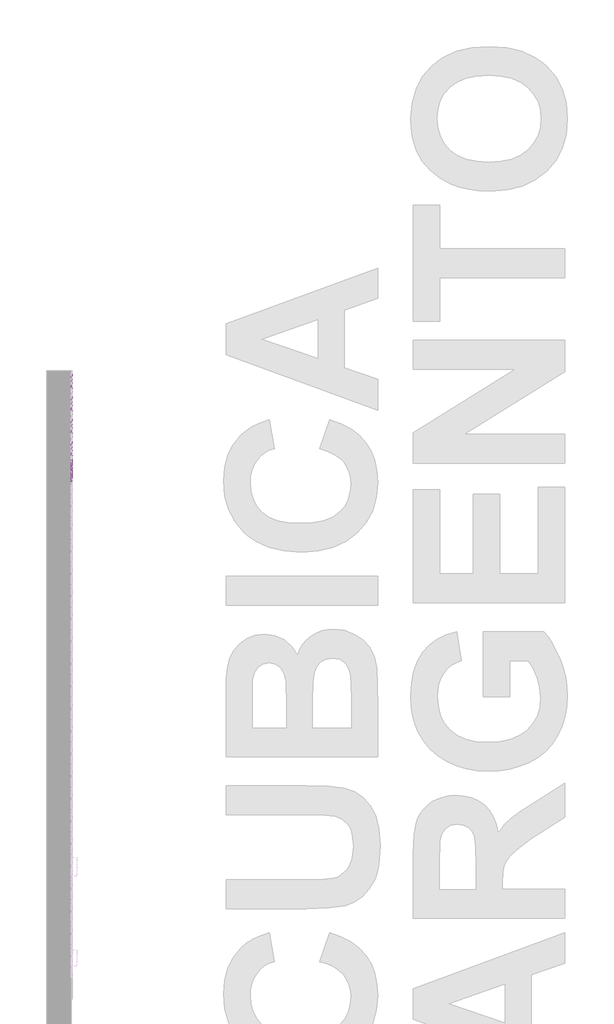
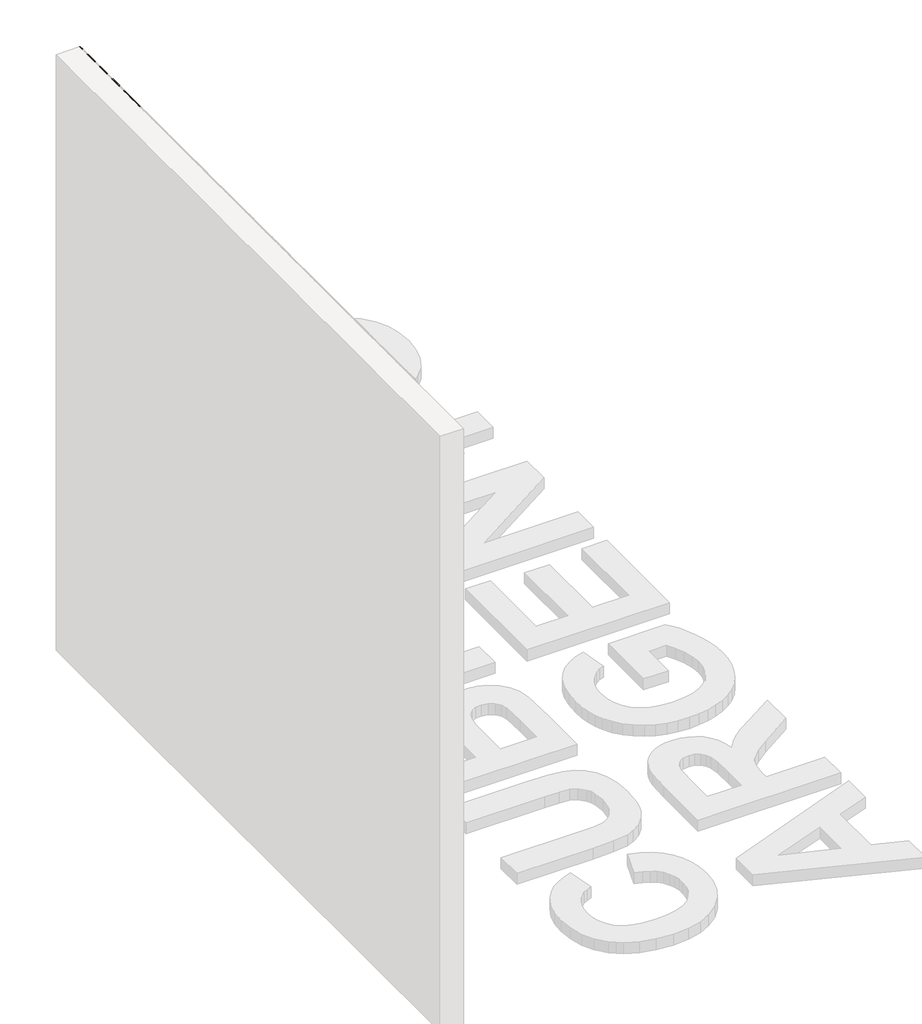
# One storey, part 24 of 121: 142 proxies.
"""IFC4 building model written with IfcOpenShell, lengths in millimetres."""

from ifc_helpers import new_model, si_unit, origin, place, context, project, spatial, transform, mapped, element, save
from components import generic_models_b2b2c5c1, generic_models_9bf73f6f, generic_models_5d175859, generic_models_336a48c1, generic_models_3c04e8e5, generic_models_61989c10, generic_models_7dea52c4, generic_models_65d4feed, generic_models_3c364290, generic_models_b212a934, generic_models_b652511d

model = new_model("IFC4")

# Units and contexts
model_context = context("Model", 3, world=origin())
ifc_project = project(units=[si_unit("LENGTHUNIT", "METRE", prefix="MILLI")], contexts=[model_context])

# Site, building, storey
site = spatial("IfcSite", under=ifc_project)
building = spatial("IfcBuilding", under=site)
storey = spatial("IfcBuildingStorey", under=building, Name="PORTOBELLO - SHOWROOM", Elevation=0.0)

# Proxies
placement = place(None, origin())
generic_models_shape = generic_models_b2b2c5c1(model_context)
element("IfcBuildingElementProxy", 1, Name="PBSHOP - CUBICA ARGENTO 4,8X8,3 : CUBICA ARGENTO - POSIÇÃO 01", ObjectType="PBSHOP - CUBICA ARGENTO 4,8X8,3 : CUBICA ARGENTO - POSIÇÃO 01", at=placement, inside=storey, context=model_context, shape_type="MappedRepresentation", body=[
    mapped(generic_models_shape, transform((150369.5341846, -3814.533081, 2012.7881262), x_axis=(0.0, 1.0, 0.0), y_axis=(0.0, 0.0, 1.0), z_axis=(1.0, 0.0, 0.0))),
])
element("IfcBuildingElementProxy", 2, Name="PBSHOP - CUBICA ARGENTO 4,8X8,3 : CUBICA ARGENTO - POSIÇÃO 01", ObjectType="PBSHOP - CUBICA ARGENTO 4,8X8,3 : CUBICA ARGENTO - POSIÇÃO 01", at=placement, inside=storey, context=model_context, shape_type="MappedRepresentation", body=[
    mapped(generic_models_shape, transform((150369.5341846, -3723.6938117, 2012.7881262), x_axis=(0.0, 1.0, 0.0), y_axis=(0.0, 0.0, 1.0), z_axis=(1.0, 0.0, 0.0))),
])
element("IfcBuildingElementProxy", 3, Name="PBSHOP - CUBICA ARGENTO 4,8X8,3 : CUBICA ARGENTO - POSIÇÃO 01", ObjectType="PBSHOP - CUBICA ARGENTO 4,8X8,3 : CUBICA ARGENTO - POSIÇÃO 01", at=placement, inside=storey, context=model_context, shape_type="MappedRepresentation", body=[
    mapped(generic_models_shape, transform((150369.5341846, -3632.8545425, 2012.7881262), x_axis=(0.0, 1.0, 0.0), y_axis=(0.0, 0.0, 1.0), z_axis=(1.0, 0.0, 0.0))),
])
element("IfcBuildingElementProxy", 4, Name="PBSHOP - CUBICA ARGENTO 4,8X8,3 : CUBICA ARGENTO - POSIÇÃO 01", ObjectType="PBSHOP - CUBICA ARGENTO 4,8X8,3 : CUBICA ARGENTO - POSIÇÃO 01", at=placement, inside=storey, context=model_context, shape_type="MappedRepresentation", body=[
    mapped(generic_models_shape, transform((150369.5341846, -3950.7919848, 2091.7227645), x_axis=(0.0, 1.0, 0.0), y_axis=(0.0, 0.0, 1.0), z_axis=(1.0, 0.0, 0.0))),
])
element("IfcBuildingElementProxy", 5, Name="PBSHOP - CUBICA ARGENTO 4,8X8,3 : CUBICA ARGENTO - POSIÇÃO 01", ObjectType="PBSHOP - CUBICA ARGENTO 4,8X8,3 : CUBICA ARGENTO - POSIÇÃO 01", at=placement, inside=storey, context=model_context, shape_type="MappedRepresentation", body=[
    mapped(generic_models_shape, transform((150369.5341846, -3859.9527156, 2091.7227645), x_axis=(0.0, 1.0, 0.0), y_axis=(0.0, 0.0, 1.0), z_axis=(1.0, 0.0, 0.0))),
])
element("IfcBuildingElementProxy", 6, Name="PBSHOP - CUBICA ARGENTO 4,8X8,3 : CUBICA ARGENTO - POSIÇÃO 01", ObjectType="PBSHOP - CUBICA ARGENTO 4,8X8,3 : CUBICA ARGENTO - POSIÇÃO 01", at=placement, inside=storey, context=model_context, shape_type="MappedRepresentation", body=[
    mapped(generic_models_shape, transform((150369.5341846, -3769.1134464, 2091.7227645), x_axis=(0.0, 1.0, 0.0), y_axis=(0.0, 0.0, 1.0), z_axis=(1.0, 0.0, 0.0))),
])
element("IfcBuildingElementProxy", 7, Name="PBSHOP - CUBICA ARGENTO 4,8X8,3 : CUBICA ARGENTO - POSIÇÃO 01", ObjectType="PBSHOP - CUBICA ARGENTO 4,8X8,3 : CUBICA ARGENTO - POSIÇÃO 01", at=placement, inside=storey, context=model_context, shape_type="MappedRepresentation", body=[
    mapped(generic_models_shape, transform((150369.5341846, -3678.2741771, 2091.7227645), x_axis=(0.0, 1.0, 0.0), y_axis=(0.0, 0.0, 1.0), z_axis=(1.0, 0.0, 0.0))),
])
element("IfcBuildingElementProxy", 8, Name="PBSHOP - CUBICA ARGENTO 4,8X8,3 : CUBICA ARGENTO - POSIÇÃO 01", ObjectType="PBSHOP - CUBICA ARGENTO 4,8X8,3 : CUBICA ARGENTO - POSIÇÃO 01", at=placement, inside=storey, context=model_context, shape_type="MappedRepresentation", body=[
    mapped(generic_models_shape, transform((150369.5341846, -3996.2116195, 2170.6574029), x_axis=(0.0, 1.0, 0.0), y_axis=(0.0, 0.0, 1.0), z_axis=(1.0, 0.0, 0.0))),
])
element("IfcBuildingElementProxy", 9, Name="PBSHOP - CUBICA ARGENTO 4,8X8,3 : CUBICA ARGENTO - POSIÇÃO 01", ObjectType="PBSHOP - CUBICA ARGENTO 4,8X8,3 : CUBICA ARGENTO - POSIÇÃO 01", at=placement, inside=storey, context=model_context, shape_type="MappedRepresentation", body=[
    mapped(generic_models_shape, transform((150369.5341846, -3905.3723502, 2170.6574029), x_axis=(0.0, 1.0, 0.0), y_axis=(0.0, 0.0, 1.0), z_axis=(1.0, 0.0, 0.0))),
])
element("IfcBuildingElementProxy", 10, Name="PBSHOP - CUBICA ARGENTO 4,8X8,3 : CUBICA ARGENTO - POSIÇÃO 01", ObjectType="PBSHOP - CUBICA ARGENTO 4,8X8,3 : CUBICA ARGENTO - POSIÇÃO 01", at=placement, inside=storey, context=model_context, shape_type="MappedRepresentation", body=[
    mapped(generic_models_shape, transform((150369.5341846, -3814.533081, 2170.6574029), x_axis=(0.0, 1.0, 0.0), y_axis=(0.0, 0.0, 1.0), z_axis=(1.0, 0.0, 0.0))),
])
element("IfcBuildingElementProxy", 11, Name="PBSHOP - CUBICA ARGENTO 4,8X8,3 : CUBICA ARGENTO - POSIÇÃO 01", ObjectType="PBSHOP - CUBICA ARGENTO 4,8X8,3 : CUBICA ARGENTO - POSIÇÃO 01", at=placement, inside=storey, context=model_context, shape_type="MappedRepresentation", body=[
    mapped(generic_models_shape, transform((150369.5341846, -3723.6938117, 2170.6574029), x_axis=(0.0, 1.0, 0.0), y_axis=(0.0, 0.0, 1.0), z_axis=(1.0, 0.0, 0.0))),
])
element("IfcBuildingElementProxy", 12, Name="PBSHOP - CUBICA ARGENTO 4,8X8,3 : CUBICA ARGENTO - POSIÇÃO 01", ObjectType="PBSHOP - CUBICA ARGENTO 4,8X8,3 : CUBICA ARGENTO - POSIÇÃO 01", at=placement, inside=storey, context=model_context, shape_type="MappedRepresentation", body=[
    mapped(generic_models_shape, transform((150369.5341846, -3632.8545425, 2170.6574029), x_axis=(0.0, 1.0, 0.0), y_axis=(0.0, 0.0, 1.0), z_axis=(1.0, 0.0, 0.0))),
])
element("IfcBuildingElementProxy", 13, Name="PBSHOP - CUBICA ARGENTO 4,8X8,3 : CUBICA ARGENTO - POSIÇÃO 01", ObjectType="PBSHOP - CUBICA ARGENTO 4,8X8,3 : CUBICA ARGENTO - POSIÇÃO 01", at=placement, inside=storey, context=model_context, shape_type="MappedRepresentation", body=[
    mapped(generic_models_shape, transform((150369.5341846, -3950.7919848, 2249.5920413), x_axis=(0.0, 1.0, 0.0), y_axis=(0.0, 0.0, 1.0), z_axis=(1.0, 0.0, 0.0))),
])
element("IfcBuildingElementProxy", 14, Name="PBSHOP - CUBICA ARGENTO 4,8X8,3 : CUBICA ARGENTO - POSIÇÃO 01", ObjectType="PBSHOP - CUBICA ARGENTO 4,8X8,3 : CUBICA ARGENTO - POSIÇÃO 01", at=placement, inside=storey, context=model_context, shape_type="MappedRepresentation", body=[
    mapped(generic_models_shape, transform((150369.5341846, -3859.9527156, 2249.5920413), x_axis=(0.0, 1.0, 0.0), y_axis=(0.0, 0.0, 1.0), z_axis=(1.0, 0.0, 0.0))),
])
element("IfcBuildingElementProxy", 15, Name="PBSHOP - CUBICA ARGENTO 4,8X8,3 : CUBICA ARGENTO - POSIÇÃO 01", ObjectType="PBSHOP - CUBICA ARGENTO 4,8X8,3 : CUBICA ARGENTO - POSIÇÃO 01", at=placement, inside=storey, context=model_context, shape_type="MappedRepresentation", body=[
    mapped(generic_models_shape, transform((150369.5341846, -3769.1134464, 2249.5920413), x_axis=(0.0, 1.0, 0.0), y_axis=(0.0, 0.0, 1.0), z_axis=(1.0, 0.0, 0.0))),
])
element("IfcBuildingElementProxy", 16, Name="PBSHOP - CUBICA ARGENTO 4,8X8,3 : CUBICA ARGENTO - POSIÇÃO 01", ObjectType="PBSHOP - CUBICA ARGENTO 4,8X8,3 : CUBICA ARGENTO - POSIÇÃO 01", at=placement, inside=storey, context=model_context, shape_type="MappedRepresentation", body=[
    mapped(generic_models_shape, transform((150369.5341846, -3678.2741771, 2249.5920413), x_axis=(0.0, 1.0, 0.0), y_axis=(0.0, 0.0, 1.0), z_axis=(1.0, 0.0, 0.0))),
])
element("IfcBuildingElementProxy", 17, Name="PBSHOP - CUBICA ARGENTO 4,8X8,3 : CUBICA ARGENTO - POSIÇÃO 01", ObjectType="PBSHOP - CUBICA ARGENTO 4,8X8,3 : CUBICA ARGENTO - POSIÇÃO 01", at=placement, inside=storey, context=model_context, shape_type="MappedRepresentation", body=[
    mapped(generic_models_shape, transform((150369.5341846, -3996.2116195, 2328.5266797), x_axis=(0.0, 1.0, 0.0), y_axis=(0.0, 0.0, 1.0), z_axis=(1.0, 0.0, 0.0))),
])
element("IfcBuildingElementProxy", 18, Name="PBSHOP - CUBICA ARGENTO 4,8X8,3 : CUBICA ARGENTO - POSIÇÃO 01", ObjectType="PBSHOP - CUBICA ARGENTO 4,8X8,3 : CUBICA ARGENTO - POSIÇÃO 01", at=placement, inside=storey, context=model_context, shape_type="MappedRepresentation", body=[
    mapped(generic_models_shape, transform((150369.5341846, -3905.3723502, 2328.5266797), x_axis=(0.0, 1.0, 0.0), y_axis=(0.0, 0.0, 1.0), z_axis=(1.0, 0.0, 0.0))),
])
element("IfcBuildingElementProxy", 19, Name="PBSHOP - CUBICA ARGENTO 4,8X8,3 : CUBICA ARGENTO - POSIÇÃO 01", ObjectType="PBSHOP - CUBICA ARGENTO 4,8X8,3 : CUBICA ARGENTO - POSIÇÃO 01", at=placement, inside=storey, context=model_context, shape_type="MappedRepresentation", body=[
    mapped(generic_models_shape, transform((150369.5341846, -3814.533081, 2328.5266797), x_axis=(0.0, 1.0, 0.0), y_axis=(0.0, 0.0, 1.0), z_axis=(1.0, 0.0, 0.0))),
])
element("IfcBuildingElementProxy", 20, Name="PBSHOP - CUBICA ARGENTO 4,8X8,3 : CUBICA ARGENTO - POSIÇÃO 01", ObjectType="PBSHOP - CUBICA ARGENTO 4,8X8,3 : CUBICA ARGENTO - POSIÇÃO 01", at=placement, inside=storey, context=model_context, shape_type="MappedRepresentation", body=[
    mapped(generic_models_shape, transform((150369.5341846, -3723.6938117, 2328.5266797), x_axis=(0.0, 1.0, 0.0), y_axis=(0.0, 0.0, 1.0), z_axis=(1.0, 0.0, 0.0))),
])
element("IfcBuildingElementProxy", 21, Name="PBSHOP - CUBICA ARGENTO 4,8X8,3 : CUBICA ARGENTO - POSIÇÃO 01", ObjectType="PBSHOP - CUBICA ARGENTO 4,8X8,3 : CUBICA ARGENTO - POSIÇÃO 01", at=placement, inside=storey, context=model_context, shape_type="MappedRepresentation", body=[
    mapped(generic_models_shape, transform((150369.5341846, -3632.8545425, 2328.5266797), x_axis=(0.0, 1.0, 0.0), y_axis=(0.0, 0.0, 1.0), z_axis=(1.0, 0.0, 0.0))),
])
element("IfcBuildingElementProxy", 22, Name="PBSHOP - CUBICA ARGENTO 4,8X8,3 : CUBICA ARGENTO - POSIÇÃO 01", ObjectType="PBSHOP - CUBICA ARGENTO 4,8X8,3 : CUBICA ARGENTO - POSIÇÃO 01", at=placement, inside=storey, context=model_context, shape_type="MappedRepresentation", body=[
    mapped(generic_models_shape, transform((150369.5341846, -3950.7919848, 2407.461318), x_axis=(0.0, 1.0, 0.0), y_axis=(0.0, 0.0, 1.0), z_axis=(1.0, 0.0, 0.0))),
])
element("IfcBuildingElementProxy", 23, Name="PBSHOP - CUBICA ARGENTO 4,8X8,3 : CUBICA ARGENTO - POSIÇÃO 01", ObjectType="PBSHOP - CUBICA ARGENTO 4,8X8,3 : CUBICA ARGENTO - POSIÇÃO 01", at=placement, inside=storey, context=model_context, shape_type="MappedRepresentation", body=[
    mapped(generic_models_shape, transform((150369.5341846, -3859.9527156, 2407.461318), x_axis=(0.0, 1.0, 0.0), y_axis=(0.0, 0.0, 1.0), z_axis=(1.0, 0.0, 0.0))),
])
element("IfcBuildingElementProxy", 24, Name="PBSHOP - CUBICA ARGENTO 4,8X8,3 : CUBICA ARGENTO - POSIÇÃO 01", ObjectType="PBSHOP - CUBICA ARGENTO 4,8X8,3 : CUBICA ARGENTO - POSIÇÃO 01", at=placement, inside=storey, context=model_context, shape_type="MappedRepresentation", body=[
    mapped(generic_models_shape, transform((150369.5341846, -3769.1134464, 2407.461318), x_axis=(0.0, 1.0, 0.0), y_axis=(0.0, 0.0, 1.0), z_axis=(1.0, 0.0, 0.0))),
])
element("IfcBuildingElementProxy", 25, Name="PBSHOP - CUBICA ARGENTO 4,8X8,3 : CUBICA ARGENTO - POSIÇÃO 01", ObjectType="PBSHOP - CUBICA ARGENTO 4,8X8,3 : CUBICA ARGENTO - POSIÇÃO 01", at=placement, inside=storey, context=model_context, shape_type="MappedRepresentation", body=[
    mapped(generic_models_shape, transform((150369.5341846, -3678.2741771, 2407.461318), x_axis=(0.0, 1.0, 0.0), y_axis=(0.0, 0.0, 1.0), z_axis=(1.0, 0.0, 0.0))),
])
element("IfcBuildingElementProxy", 26, Name="PBSHOP - CUBICA ARGENTO 4,8X8,3 : CUBICA ARGENTO - POSIÇÃO 01", ObjectType="PBSHOP - CUBICA ARGENTO 4,8X8,3 : CUBICA ARGENTO - POSIÇÃO 01", at=placement, inside=storey, context=model_context, shape_type="MappedRepresentation", body=[
    mapped(generic_models_shape, transform((150369.5341846, -3996.2116195, 2486.3959564), x_axis=(0.0, 1.0, 0.0), y_axis=(0.0, 0.0, 1.0), z_axis=(1.0, 0.0, 0.0))),
])
element("IfcBuildingElementProxy", 27, Name="PBSHOP - CUBICA ARGENTO 4,8X8,3 : CUBICA ARGENTO - POSIÇÃO 01", ObjectType="PBSHOP - CUBICA ARGENTO 4,8X8,3 : CUBICA ARGENTO - POSIÇÃO 01", at=placement, inside=storey, context=model_context, shape_type="MappedRepresentation", body=[
    mapped(generic_models_shape, transform((150369.5341846, -3905.3723502, 2486.3959564), x_axis=(0.0, 1.0, 0.0), y_axis=(0.0, 0.0, 1.0), z_axis=(1.0, 0.0, 0.0))),
])
element("IfcBuildingElementProxy", 28, Name="PBSHOP - CUBICA ARGENTO 4,8X8,3 : CUBICA ARGENTO - POSIÇÃO 01", ObjectType="PBSHOP - CUBICA ARGENTO 4,8X8,3 : CUBICA ARGENTO - POSIÇÃO 01", at=placement, inside=storey, context=model_context, shape_type="MappedRepresentation", body=[
    mapped(generic_models_shape, transform((150369.5341846, -3814.533081, 2486.3959564), x_axis=(0.0, 1.0, 0.0), y_axis=(0.0, 0.0, 1.0), z_axis=(1.0, 0.0, 0.0))),
])
element("IfcBuildingElementProxy", 29, Name="PBSHOP - CUBICA ARGENTO 4,8X8,3 : CUBICA ARGENTO - POSIÇÃO 01", ObjectType="PBSHOP - CUBICA ARGENTO 4,8X8,3 : CUBICA ARGENTO - POSIÇÃO 01", at=placement, inside=storey, context=model_context, shape_type="MappedRepresentation", body=[
    mapped(generic_models_shape, transform((150369.5341846, -3723.6938117, 2486.3959564), x_axis=(0.0, 1.0, 0.0), y_axis=(0.0, 0.0, 1.0), z_axis=(1.0, 0.0, 0.0))),
])
element("IfcBuildingElementProxy", 30, Name="PBSHOP - CUBICA ARGENTO 4,8X8,3 : CUBICA ARGENTO - POSIÇÃO 01", ObjectType="PBSHOP - CUBICA ARGENTO 4,8X8,3 : CUBICA ARGENTO - POSIÇÃO 01", at=placement, inside=storey, context=model_context, shape_type="MappedRepresentation", body=[
    mapped(generic_models_shape, transform((150369.5341846, -3632.8545425, 2486.3959564), x_axis=(0.0, 1.0, 0.0), y_axis=(0.0, 0.0, 1.0), z_axis=(1.0, 0.0, 0.0))),
])
element("IfcBuildingElementProxy", 31, Name="PBSHOP - CUBICA ARGENTO 4,8X8,3 : CUBICA ARGENTO - POSIÇÃO 01", ObjectType="PBSHOP - CUBICA ARGENTO 4,8X8,3 : CUBICA ARGENTO - POSIÇÃO 01", at=placement, inside=storey, context=model_context, shape_type="MappedRepresentation", body=[
    mapped(generic_models_shape, transform((150369.5341846, -3950.7919848, 2565.3305948), x_axis=(0.0, 1.0, 0.0), y_axis=(0.0, 0.0, 1.0), z_axis=(1.0, 0.0, 0.0))),
])
element("IfcBuildingElementProxy", 32, Name="PBSHOP - CUBICA ARGENTO 4,8X8,3 : CUBICA ARGENTO - POSIÇÃO 01", ObjectType="PBSHOP - CUBICA ARGENTO 4,8X8,3 : CUBICA ARGENTO - POSIÇÃO 01", at=placement, inside=storey, context=model_context, shape_type="MappedRepresentation", body=[
    mapped(generic_models_shape, transform((150369.5341846, -3859.9527156, 2565.3305948), x_axis=(0.0, 1.0, 0.0), y_axis=(0.0, 0.0, 1.0), z_axis=(1.0, 0.0, 0.0))),
])
element("IfcBuildingElementProxy", 33, Name="PBSHOP - CUBICA ARGENTO 4,8X8,3 : CUBICA ARGENTO - POSIÇÃO 01", ObjectType="PBSHOP - CUBICA ARGENTO 4,8X8,3 : CUBICA ARGENTO - POSIÇÃO 01", at=placement, inside=storey, context=model_context, shape_type="MappedRepresentation", body=[
    mapped(generic_models_shape, transform((150369.5341846, -3769.1134464, 2565.3305948), x_axis=(0.0, 1.0, 0.0), y_axis=(0.0, 0.0, 1.0), z_axis=(1.0, 0.0, 0.0))),
])
element("IfcBuildingElementProxy", 34, Name="PBSHOP - CUBICA ARGENTO 4,8X8,3 : CUBICA ARGENTO - POSIÇÃO 01", ObjectType="PBSHOP - CUBICA ARGENTO 4,8X8,3 : CUBICA ARGENTO - POSIÇÃO 01", at=placement, inside=storey, context=model_context, shape_type="MappedRepresentation", body=[
    mapped(generic_models_shape, transform((150369.5341846, -3678.2741771, 2565.3305948), x_axis=(0.0, 1.0, 0.0), y_axis=(0.0, 0.0, 1.0), z_axis=(1.0, 0.0, 0.0))),
])
element("IfcBuildingElementProxy", 35, Name="PBSHOP - CUBICA ARGENTO 4,8X8,3 : CUBICA ARGENTO - POSIÇÃO 01", ObjectType="PBSHOP - CUBICA ARGENTO 4,8X8,3 : CUBICA ARGENTO - POSIÇÃO 01", at=placement, inside=storey, context=model_context, shape_type="MappedRepresentation", body=[
    mapped(generic_models_shape, transform((150369.5341846, -3996.2116195, 2644.2652332), x_axis=(0.0, 1.0, 0.0), y_axis=(0.0, 0.0, 1.0), z_axis=(1.0, 0.0, 0.0))),
])
element("IfcBuildingElementProxy", 36, Name="PBSHOP - CUBICA ARGENTO 4,8X8,3 : CUBICA ARGENTO - POSIÇÃO 01", ObjectType="PBSHOP - CUBICA ARGENTO 4,8X8,3 : CUBICA ARGENTO - POSIÇÃO 01", at=placement, inside=storey, context=model_context, shape_type="MappedRepresentation", body=[
    mapped(generic_models_shape, transform((150369.5341846, -3905.3723502, 2644.2652332), x_axis=(0.0, 1.0, 0.0), y_axis=(0.0, 0.0, 1.0), z_axis=(1.0, 0.0, 0.0))),
])
element("IfcBuildingElementProxy", 37, Name="PBSHOP - CUBICA ARGENTO 4,8X8,3 : CUBICA ARGENTO - POSIÇÃO 01", ObjectType="PBSHOP - CUBICA ARGENTO 4,8X8,3 : CUBICA ARGENTO - POSIÇÃO 01", at=placement, inside=storey, context=model_context, shape_type="MappedRepresentation", body=[
    mapped(generic_models_shape, transform((150369.5341846, -3814.533081, 2644.2652332), x_axis=(0.0, 1.0, 0.0), y_axis=(0.0, 0.0, 1.0), z_axis=(1.0, 0.0, 0.0))),
])
element("IfcBuildingElementProxy", 38, Name="PBSHOP - CUBICA ARGENTO 4,8X8,3 : CUBICA ARGENTO - POSIÇÃO 01", ObjectType="PBSHOP - CUBICA ARGENTO 4,8X8,3 : CUBICA ARGENTO - POSIÇÃO 01", at=placement, inside=storey, context=model_context, shape_type="MappedRepresentation", body=[
    mapped(generic_models_shape, transform((150369.5341846, -3723.6938117, 2644.2652332), x_axis=(0.0, 1.0, 0.0), y_axis=(0.0, 0.0, 1.0), z_axis=(1.0, 0.0, 0.0))),
])
element("IfcBuildingElementProxy", 39, Name="PBSHOP - CUBICA ARGENTO 4,8X8,3 : CUBICA ARGENTO - POSIÇÃO 01", ObjectType="PBSHOP - CUBICA ARGENTO 4,8X8,3 : CUBICA ARGENTO - POSIÇÃO 01", at=placement, inside=storey, context=model_context, shape_type="MappedRepresentation", body=[
    mapped(generic_models_shape, transform((150369.5341846, -3632.8545425, 2644.2652332), x_axis=(0.0, 1.0, 0.0), y_axis=(0.0, 0.0, 1.0), z_axis=(1.0, 0.0, 0.0))),
])
generic_models_2_shape = generic_models_9bf73f6f(model_context)
element("IfcBuildingElementProxy", 40, Name="PBSHOP - CUBICA ARGENTO 4,8X8,3 : CUBICA ARGENTO - POSIÇÃO 03", ObjectType="PBSHOP - CUBICA ARGENTO 4,8X8,3 : CUBICA ARGENTO - POSIÇÃO 03", at=placement, inside=storey, context=model_context, shape_type="MappedRepresentation", body=[
    mapped(generic_models_2_shape, transform((150369.5341846, -3928.0800084, 1973.2795966), x_axis=(0.0, 1.0, 0.0), y_axis=(0.0, 0.0, 1.0), z_axis=(1.0, 0.0, 0.0))),
])
element("IfcBuildingElementProxy", 41, Name="PBSHOP - CUBICA ARGENTO 4,8X8,3 : CUBICA ARGENTO - POSIÇÃO 03", ObjectType="PBSHOP - CUBICA ARGENTO 4,8X8,3 : CUBICA ARGENTO - POSIÇÃO 03", at=placement, inside=storey, context=model_context, shape_type="MappedRepresentation", body=[
    mapped(generic_models_2_shape, transform((150369.5341846, -3837.2407391, 1973.2795966), x_axis=(0.0, 1.0, 0.0), y_axis=(0.0, 0.0, 1.0), z_axis=(1.0, 0.0, 0.0))),
])
element("IfcBuildingElementProxy", 42, Name="PBSHOP - CUBICA ARGENTO 4,8X8,3 : CUBICA ARGENTO - POSIÇÃO 03", ObjectType="PBSHOP - CUBICA ARGENTO 4,8X8,3 : CUBICA ARGENTO - POSIÇÃO 03", at=placement, inside=storey, context=model_context, shape_type="MappedRepresentation", body=[
    mapped(generic_models_2_shape, transform((150369.5341846, -3746.4014699, 1973.2795966), x_axis=(0.0, 1.0, 0.0), y_axis=(0.0, 0.0, 1.0), z_axis=(1.0, 0.0, 0.0))),
])
element("IfcBuildingElementProxy", 43, Name="PBSHOP - CUBICA ARGENTO 4,8X8,3 : CUBICA ARGENTO - POSIÇÃO 03", ObjectType="PBSHOP - CUBICA ARGENTO 4,8X8,3 : CUBICA ARGENTO - POSIÇÃO 03", at=placement, inside=storey, context=model_context, shape_type="MappedRepresentation", body=[
    mapped(generic_models_2_shape, transform((150369.5341846, -3655.5622006, 1973.2795966), x_axis=(0.0, 1.0, 0.0), y_axis=(0.0, 0.0, 1.0), z_axis=(1.0, 0.0, 0.0))),
])
element("IfcBuildingElementProxy", 44, Name="PBSHOP - CUBICA ARGENTO 4,8X8,3 : CUBICA ARGENTO - POSIÇÃO 03", ObjectType="PBSHOP - CUBICA ARGENTO 4,8X8,3 : CUBICA ARGENTO - POSIÇÃO 03", at=placement, inside=storey, context=model_context, shape_type="MappedRepresentation", body=[
    mapped(generic_models_2_shape, transform((150369.5341846, -3973.499643, 2052.2142349), x_axis=(0.0, 1.0, 0.0), y_axis=(0.0, 0.0, 1.0), z_axis=(1.0, 0.0, 0.0))),
])
element("IfcBuildingElementProxy", 45, Name="PBSHOP - CUBICA ARGENTO 4,8X8,3 : CUBICA ARGENTO - POSIÇÃO 03", ObjectType="PBSHOP - CUBICA ARGENTO 4,8X8,3 : CUBICA ARGENTO - POSIÇÃO 03", at=placement, inside=storey, context=model_context, shape_type="MappedRepresentation", body=[
    mapped(generic_models_2_shape, transform((150369.5341846, -3882.6603737, 2052.2142349), x_axis=(0.0, 1.0, 0.0), y_axis=(0.0, 0.0, 1.0), z_axis=(1.0, 0.0, 0.0))),
])
element("IfcBuildingElementProxy", 46, Name="PBSHOP - CUBICA ARGENTO 4,8X8,3 : CUBICA ARGENTO - POSIÇÃO 03", ObjectType="PBSHOP - CUBICA ARGENTO 4,8X8,3 : CUBICA ARGENTO - POSIÇÃO 03", at=placement, inside=storey, context=model_context, shape_type="MappedRepresentation", body=[
    mapped(generic_models_2_shape, transform((150369.5341846, -3791.8211045, 2052.2142349), x_axis=(0.0, 1.0, 0.0), y_axis=(0.0, 0.0, 1.0), z_axis=(1.0, 0.0, 0.0))),
])
element("IfcBuildingElementProxy", 47, Name="PBSHOP - CUBICA ARGENTO 4,8X8,3 : CUBICA ARGENTO - POSIÇÃO 03", ObjectType="PBSHOP - CUBICA ARGENTO 4,8X8,3 : CUBICA ARGENTO - POSIÇÃO 03", at=placement, inside=storey, context=model_context, shape_type="MappedRepresentation", body=[
    mapped(generic_models_2_shape, transform((150369.5341846, -3700.9818353, 2052.2142349), x_axis=(0.0, 1.0, 0.0), y_axis=(0.0, 0.0, 1.0), z_axis=(1.0, 0.0, 0.0))),
])
element("IfcBuildingElementProxy", 48, Name="PBSHOP - CUBICA ARGENTO 4,8X8,3 : CUBICA ARGENTO - POSIÇÃO 03", ObjectType="PBSHOP - CUBICA ARGENTO 4,8X8,3 : CUBICA ARGENTO - POSIÇÃO 03", at=placement, inside=storey, context=model_context, shape_type="MappedRepresentation", body=[
    mapped(generic_models_2_shape, transform((150369.5341846, -3928.0800084, 2131.1488733), x_axis=(0.0, 1.0, 0.0), y_axis=(0.0, 0.0, 1.0), z_axis=(1.0, 0.0, 0.0))),
])
element("IfcBuildingElementProxy", 49, Name="PBSHOP - CUBICA ARGENTO 4,8X8,3 : CUBICA ARGENTO - POSIÇÃO 03", ObjectType="PBSHOP - CUBICA ARGENTO 4,8X8,3 : CUBICA ARGENTO - POSIÇÃO 03", at=placement, inside=storey, context=model_context, shape_type="MappedRepresentation", body=[
    mapped(generic_models_2_shape, transform((150369.5341846, -3837.2407391, 2131.1488733), x_axis=(0.0, 1.0, 0.0), y_axis=(0.0, 0.0, 1.0), z_axis=(1.0, 0.0, 0.0))),
])
element("IfcBuildingElementProxy", 50, Name="PBSHOP - CUBICA ARGENTO 4,8X8,3 : CUBICA ARGENTO - POSIÇÃO 03", ObjectType="PBSHOP - CUBICA ARGENTO 4,8X8,3 : CUBICA ARGENTO - POSIÇÃO 03", at=placement, inside=storey, context=model_context, shape_type="MappedRepresentation", body=[
    mapped(generic_models_2_shape, transform((150369.5341846, -3746.4014699, 2131.1488733), x_axis=(0.0, 1.0, 0.0), y_axis=(0.0, 0.0, 1.0), z_axis=(1.0, 0.0, 0.0))),
])
element("IfcBuildingElementProxy", 51, Name="PBSHOP - CUBICA ARGENTO 4,8X8,3 : CUBICA ARGENTO - POSIÇÃO 03", ObjectType="PBSHOP - CUBICA ARGENTO 4,8X8,3 : CUBICA ARGENTO - POSIÇÃO 03", at=placement, inside=storey, context=model_context, shape_type="MappedRepresentation", body=[
    mapped(generic_models_2_shape, transform((150369.5341846, -3655.5622006, 2131.1488733), x_axis=(0.0, 1.0, 0.0), y_axis=(0.0, 0.0, 1.0), z_axis=(1.0, 0.0, 0.0))),
])
element("IfcBuildingElementProxy", 52, Name="PBSHOP - CUBICA ARGENTO 4,8X8,3 : CUBICA ARGENTO - POSIÇÃO 03", ObjectType="PBSHOP - CUBICA ARGENTO 4,8X8,3 : CUBICA ARGENTO - POSIÇÃO 03", at=placement, inside=storey, context=model_context, shape_type="MappedRepresentation", body=[
    mapped(generic_models_2_shape, transform((150369.5341846, -3973.499643, 2210.0835117), x_axis=(0.0, 1.0, 0.0), y_axis=(0.0, 0.0, 1.0), z_axis=(1.0, 0.0, 0.0))),
])
element("IfcBuildingElementProxy", 53, Name="PBSHOP - CUBICA ARGENTO 4,8X8,3 : CUBICA ARGENTO - POSIÇÃO 03", ObjectType="PBSHOP - CUBICA ARGENTO 4,8X8,3 : CUBICA ARGENTO - POSIÇÃO 03", at=placement, inside=storey, context=model_context, shape_type="MappedRepresentation", body=[
    mapped(generic_models_2_shape, transform((150369.5341846, -3882.6603737, 2210.0835117), x_axis=(0.0, 1.0, 0.0), y_axis=(0.0, 0.0, 1.0), z_axis=(1.0, 0.0, 0.0))),
])
element("IfcBuildingElementProxy", 54, Name="PBSHOP - CUBICA ARGENTO 4,8X8,3 : CUBICA ARGENTO - POSIÇÃO 03", ObjectType="PBSHOP - CUBICA ARGENTO 4,8X8,3 : CUBICA ARGENTO - POSIÇÃO 03", at=placement, inside=storey, context=model_context, shape_type="MappedRepresentation", body=[
    mapped(generic_models_2_shape, transform((150369.5341846, -3791.8211045, 2210.0835117), x_axis=(0.0, 1.0, 0.0), y_axis=(0.0, 0.0, 1.0), z_axis=(1.0, 0.0, 0.0))),
])
element("IfcBuildingElementProxy", 55, Name="PBSHOP - CUBICA ARGENTO 4,8X8,3 : CUBICA ARGENTO - POSIÇÃO 03", ObjectType="PBSHOP - CUBICA ARGENTO 4,8X8,3 : CUBICA ARGENTO - POSIÇÃO 03", at=placement, inside=storey, context=model_context, shape_type="MappedRepresentation", body=[
    mapped(generic_models_2_shape, transform((150369.5341846, -3700.9818353, 2210.0835117), x_axis=(0.0, 1.0, 0.0), y_axis=(0.0, 0.0, 1.0), z_axis=(1.0, 0.0, 0.0))),
])
element("IfcBuildingElementProxy", 56, Name="PBSHOP - CUBICA ARGENTO 4,8X8,3 : CUBICA ARGENTO - POSIÇÃO 03", ObjectType="PBSHOP - CUBICA ARGENTO 4,8X8,3 : CUBICA ARGENTO - POSIÇÃO 03", at=placement, inside=storey, context=model_context, shape_type="MappedRepresentation", body=[
    mapped(generic_models_2_shape, transform((150369.5341846, -3928.0800084, 2289.0181501), x_axis=(0.0, 1.0, 0.0), y_axis=(0.0, 0.0, 1.0), z_axis=(1.0, 0.0, 0.0))),
])
element("IfcBuildingElementProxy", 57, Name="PBSHOP - CUBICA ARGENTO 4,8X8,3 : CUBICA ARGENTO - POSIÇÃO 03", ObjectType="PBSHOP - CUBICA ARGENTO 4,8X8,3 : CUBICA ARGENTO - POSIÇÃO 03", at=placement, inside=storey, context=model_context, shape_type="MappedRepresentation", body=[
    mapped(generic_models_2_shape, transform((150369.5341846, -3837.2407391, 2289.0181501), x_axis=(0.0, 1.0, 0.0), y_axis=(0.0, 0.0, 1.0), z_axis=(1.0, 0.0, 0.0))),
])
element("IfcBuildingElementProxy", 58, Name="PBSHOP - CUBICA ARGENTO 4,8X8,3 : CUBICA ARGENTO - POSIÇÃO 03", ObjectType="PBSHOP - CUBICA ARGENTO 4,8X8,3 : CUBICA ARGENTO - POSIÇÃO 03", at=placement, inside=storey, context=model_context, shape_type="MappedRepresentation", body=[
    mapped(generic_models_2_shape, transform((150369.5341846, -3746.4014699, 2289.0181501), x_axis=(0.0, 1.0, 0.0), y_axis=(0.0, 0.0, 1.0), z_axis=(1.0, 0.0, 0.0))),
])
element("IfcBuildingElementProxy", 59, Name="PBSHOP - CUBICA ARGENTO 4,8X8,3 : CUBICA ARGENTO - POSIÇÃO 03", ObjectType="PBSHOP - CUBICA ARGENTO 4,8X8,3 : CUBICA ARGENTO - POSIÇÃO 03", at=placement, inside=storey, context=model_context, shape_type="MappedRepresentation", body=[
    mapped(generic_models_2_shape, transform((150369.5341846, -3655.5622006, 2289.0181501), x_axis=(0.0, 1.0, 0.0), y_axis=(0.0, 0.0, 1.0), z_axis=(1.0, 0.0, 0.0))),
])
element("IfcBuildingElementProxy", 60, Name="PBSHOP - CUBICA ARGENTO 4,8X8,3 : CUBICA ARGENTO - POSIÇÃO 03", ObjectType="PBSHOP - CUBICA ARGENTO 4,8X8,3 : CUBICA ARGENTO - POSIÇÃO 03", at=placement, inside=storey, context=model_context, shape_type="MappedRepresentation", body=[
    mapped(generic_models_2_shape, transform((150369.5341846, -3973.499643, 2367.9527884), x_axis=(0.0, 1.0, 0.0), y_axis=(0.0, 0.0, 1.0), z_axis=(1.0, 0.0, 0.0))),
])
element("IfcBuildingElementProxy", 61, Name="PBSHOP - CUBICA ARGENTO 4,8X8,3 : CUBICA ARGENTO - POSIÇÃO 03", ObjectType="PBSHOP - CUBICA ARGENTO 4,8X8,3 : CUBICA ARGENTO - POSIÇÃO 03", at=placement, inside=storey, context=model_context, shape_type="MappedRepresentation", body=[
    mapped(generic_models_2_shape, transform((150369.5341846, -3882.6603737, 2367.9527884), x_axis=(0.0, 1.0, 0.0), y_axis=(0.0, 0.0, 1.0), z_axis=(1.0, 0.0, 0.0))),
])
element("IfcBuildingElementProxy", 62, Name="PBSHOP - CUBICA ARGENTO 4,8X8,3 : CUBICA ARGENTO - POSIÇÃO 03", ObjectType="PBSHOP - CUBICA ARGENTO 4,8X8,3 : CUBICA ARGENTO - POSIÇÃO 03", at=placement, inside=storey, context=model_context, shape_type="MappedRepresentation", body=[
    mapped(generic_models_2_shape, transform((150369.5341846, -3791.8211045, 2367.9527884), x_axis=(0.0, 1.0, 0.0), y_axis=(0.0, 0.0, 1.0), z_axis=(1.0, 0.0, 0.0))),
])
element("IfcBuildingElementProxy", 63, Name="PBSHOP - CUBICA ARGENTO 4,8X8,3 : CUBICA ARGENTO - POSIÇÃO 03", ObjectType="PBSHOP - CUBICA ARGENTO 4,8X8,3 : CUBICA ARGENTO - POSIÇÃO 03", at=placement, inside=storey, context=model_context, shape_type="MappedRepresentation", body=[
    mapped(generic_models_2_shape, transform((150369.5341846, -3700.9818353, 2367.9527884), x_axis=(0.0, 1.0, 0.0), y_axis=(0.0, 0.0, 1.0), z_axis=(1.0, 0.0, 0.0))),
])
element("IfcBuildingElementProxy", 64, Name="PBSHOP - CUBICA ARGENTO 4,8X8,3 : CUBICA ARGENTO - POSIÇÃO 03", ObjectType="PBSHOP - CUBICA ARGENTO 4,8X8,3 : CUBICA ARGENTO - POSIÇÃO 03", at=placement, inside=storey, context=model_context, shape_type="MappedRepresentation", body=[
    mapped(generic_models_2_shape, transform((150369.5341846, -3928.0800084, 2446.8874268), x_axis=(0.0, 1.0, 0.0), y_axis=(0.0, 0.0, 1.0), z_axis=(1.0, 0.0, 0.0))),
])
element("IfcBuildingElementProxy", 65, Name="PBSHOP - CUBICA ARGENTO 4,8X8,3 : CUBICA ARGENTO - POSIÇÃO 03", ObjectType="PBSHOP - CUBICA ARGENTO 4,8X8,3 : CUBICA ARGENTO - POSIÇÃO 03", at=placement, inside=storey, context=model_context, shape_type="MappedRepresentation", body=[
    mapped(generic_models_2_shape, transform((150369.5341846, -3837.2407391, 2446.8874268), x_axis=(0.0, 1.0, 0.0), y_axis=(0.0, 0.0, 1.0), z_axis=(1.0, 0.0, 0.0))),
])
element("IfcBuildingElementProxy", 66, Name="PBSHOP - CUBICA ARGENTO 4,8X8,3 : CUBICA ARGENTO - POSIÇÃO 03", ObjectType="PBSHOP - CUBICA ARGENTO 4,8X8,3 : CUBICA ARGENTO - POSIÇÃO 03", at=placement, inside=storey, context=model_context, shape_type="MappedRepresentation", body=[
    mapped(generic_models_2_shape, transform((150369.5341846, -3746.4014699, 2446.8874268), x_axis=(0.0, 1.0, 0.0), y_axis=(0.0, 0.0, 1.0), z_axis=(1.0, 0.0, 0.0))),
])
element("IfcBuildingElementProxy", 67, Name="PBSHOP - CUBICA ARGENTO 4,8X8,3 : CUBICA ARGENTO - POSIÇÃO 03", ObjectType="PBSHOP - CUBICA ARGENTO 4,8X8,3 : CUBICA ARGENTO - POSIÇÃO 03", at=placement, inside=storey, context=model_context, shape_type="MappedRepresentation", body=[
    mapped(generic_models_2_shape, transform((150369.5341846, -3655.5622006, 2446.8874268), x_axis=(0.0, 1.0, 0.0), y_axis=(0.0, 0.0, 1.0), z_axis=(1.0, 0.0, 0.0))),
])
element("IfcBuildingElementProxy", 68, Name="PBSHOP - CUBICA ARGENTO 4,8X8,3 : CUBICA ARGENTO - POSIÇÃO 03", ObjectType="PBSHOP - CUBICA ARGENTO 4,8X8,3 : CUBICA ARGENTO - POSIÇÃO 03", at=placement, inside=storey, context=model_context, shape_type="MappedRepresentation", body=[
    mapped(generic_models_2_shape, transform((150369.5341846, -3973.499643, 2525.8220652), x_axis=(0.0, 1.0, 0.0), y_axis=(0.0, 0.0, 1.0), z_axis=(1.0, 0.0, 0.0))),
])
element("IfcBuildingElementProxy", 69, Name="PBSHOP - CUBICA ARGENTO 4,8X8,3 : CUBICA ARGENTO - POSIÇÃO 03", ObjectType="PBSHOP - CUBICA ARGENTO 4,8X8,3 : CUBICA ARGENTO - POSIÇÃO 03", at=placement, inside=storey, context=model_context, shape_type="MappedRepresentation", body=[
    mapped(generic_models_2_shape, transform((150369.5341846, -3882.6603737, 2525.8220652), x_axis=(0.0, 1.0, 0.0), y_axis=(0.0, 0.0, 1.0), z_axis=(1.0, 0.0, 0.0))),
])
element("IfcBuildingElementProxy", 70, Name="PBSHOP - CUBICA ARGENTO 4,8X8,3 : CUBICA ARGENTO - POSIÇÃO 03", ObjectType="PBSHOP - CUBICA ARGENTO 4,8X8,3 : CUBICA ARGENTO - POSIÇÃO 03", at=placement, inside=storey, context=model_context, shape_type="MappedRepresentation", body=[
    mapped(generic_models_2_shape, transform((150369.5341846, -3791.8211045, 2525.8220652), x_axis=(0.0, 1.0, 0.0), y_axis=(0.0, 0.0, 1.0), z_axis=(1.0, 0.0, 0.0))),
])
element("IfcBuildingElementProxy", 71, Name="PBSHOP - CUBICA ARGENTO 4,8X8,3 : CUBICA ARGENTO - POSIÇÃO 03", ObjectType="PBSHOP - CUBICA ARGENTO 4,8X8,3 : CUBICA ARGENTO - POSIÇÃO 03", at=placement, inside=storey, context=model_context, shape_type="MappedRepresentation", body=[
    mapped(generic_models_2_shape, transform((150369.5341846, -3700.9818353, 2525.8220652), x_axis=(0.0, 1.0, 0.0), y_axis=(0.0, 0.0, 1.0), z_axis=(1.0, 0.0, 0.0))),
])
element("IfcBuildingElementProxy", 72, Name="PBSHOP - CUBICA ARGENTO 4,8X8,3 : CUBICA ARGENTO - POSIÇÃO 03", ObjectType="PBSHOP - CUBICA ARGENTO 4,8X8,3 : CUBICA ARGENTO - POSIÇÃO 03", at=placement, inside=storey, context=model_context, shape_type="MappedRepresentation", body=[
    mapped(generic_models_2_shape, transform((150369.5341846, -3928.0800084, 2604.7567035), x_axis=(0.0, 1.0, 0.0), y_axis=(0.0, 0.0, 1.0), z_axis=(1.0, 0.0, 0.0))),
])
element("IfcBuildingElementProxy", 73, Name="PBSHOP - CUBICA ARGENTO 4,8X8,3 : CUBICA ARGENTO - POSIÇÃO 03", ObjectType="PBSHOP - CUBICA ARGENTO 4,8X8,3 : CUBICA ARGENTO - POSIÇÃO 03", at=placement, inside=storey, context=model_context, shape_type="MappedRepresentation", body=[
    mapped(generic_models_2_shape, transform((150369.5341846, -3837.2407391, 2604.7567035), x_axis=(0.0, 1.0, 0.0), y_axis=(0.0, 0.0, 1.0), z_axis=(1.0, 0.0, 0.0))),
])
element("IfcBuildingElementProxy", 74, Name="PBSHOP - CUBICA ARGENTO 4,8X8,3 : CUBICA ARGENTO - POSIÇÃO 03", ObjectType="PBSHOP - CUBICA ARGENTO 4,8X8,3 : CUBICA ARGENTO - POSIÇÃO 03", at=placement, inside=storey, context=model_context, shape_type="MappedRepresentation", body=[
    mapped(generic_models_2_shape, transform((150369.5341846, -3746.4014699, 2604.7567035), x_axis=(0.0, 1.0, 0.0), y_axis=(0.0, 0.0, 1.0), z_axis=(1.0, 0.0, 0.0))),
])
element("IfcBuildingElementProxy", 75, Name="PBSHOP - CUBICA ARGENTO 4,8X8,3 : CUBICA ARGENTO - POSIÇÃO 03", ObjectType="PBSHOP - CUBICA ARGENTO 4,8X8,3 : CUBICA ARGENTO - POSIÇÃO 03", at=placement, inside=storey, context=model_context, shape_type="MappedRepresentation", body=[
    mapped(generic_models_2_shape, transform((150369.5341846, -3655.5622006, 2604.7567035), x_axis=(0.0, 1.0, 0.0), y_axis=(0.0, 0.0, 1.0), z_axis=(1.0, 0.0, 0.0))),
])
generic_models_3_shape = generic_models_5d175859(model_context)
element("IfcBuildingElementProxy", 76, Name="PBSHOP - CUBICA ARGENTO 4,8X8,3 : CUBICA ARGENTO - POSIÇÃO 01", ObjectType="PBSHOP - CUBICA ARGENTO 4,8X8,3 : CUBICA ARGENTO - POSIÇÃO 01", at=placement, inside=storey, context=model_context, shape_type="MappedRepresentation", body=[
    mapped(generic_models_3_shape, transform((150369.5341846, -3769.109128, 2012.7881262), x_axis=(0.0, -1.0, 0.0), y_axis=(0.0, 0.0, -1.0), z_axis=(1.0, 0.0, 0.0))),
])
element("IfcBuildingElementProxy", 77, Name="PBSHOP - CUBICA ARGENTO 4,8X8,3 : CUBICA ARGENTO - POSIÇÃO 01", ObjectType="PBSHOP - CUBICA ARGENTO 4,8X8,3 : CUBICA ARGENTO - POSIÇÃO 01", at=placement, inside=storey, context=model_context, shape_type="MappedRepresentation", body=[
    mapped(generic_models_3_shape, transform((150369.5341846, -3678.2698588, 2012.7881262), x_axis=(0.0, -1.0, 0.0), y_axis=(0.0, 0.0, -1.0), z_axis=(1.0, 0.0, 0.0))),
])
element("IfcBuildingElementProxy", 78, Name="PBSHOP - CUBICA ARGENTO 4,8X8,3 : CUBICA ARGENTO - POSIÇÃO 01", ObjectType="PBSHOP - CUBICA ARGENTO 4,8X8,3 : CUBICA ARGENTO - POSIÇÃO 01", at=placement, inside=storey, context=model_context, shape_type="MappedRepresentation", body=[
    mapped(generic_models_3_shape, transform((150369.5341846, -3996.2073011, 2091.7227645), x_axis=(0.0, -1.0, 0.0), y_axis=(0.0, 0.0, -1.0), z_axis=(1.0, 0.0, 0.0))),
])
element("IfcBuildingElementProxy", 79, Name="PBSHOP - CUBICA ARGENTO 4,8X8,3 : CUBICA ARGENTO - POSIÇÃO 01", ObjectType="PBSHOP - CUBICA ARGENTO 4,8X8,3 : CUBICA ARGENTO - POSIÇÃO 01", at=placement, inside=storey, context=model_context, shape_type="MappedRepresentation", body=[
    mapped(generic_models_3_shape, transform((150369.5341846, -3905.3680319, 2091.7227645), x_axis=(0.0, -1.0, 0.0), y_axis=(0.0, 0.0, -1.0), z_axis=(1.0, 0.0, 0.0))),
])
element("IfcBuildingElementProxy", 80, Name="PBSHOP - CUBICA ARGENTO 4,8X8,3 : CUBICA ARGENTO - POSIÇÃO 01", ObjectType="PBSHOP - CUBICA ARGENTO 4,8X8,3 : CUBICA ARGENTO - POSIÇÃO 01", at=placement, inside=storey, context=model_context, shape_type="MappedRepresentation", body=[
    mapped(generic_models_3_shape, transform((150369.5341846, -3814.5287626, 2091.7227645), x_axis=(0.0, -1.0, 0.0), y_axis=(0.0, 0.0, -1.0), z_axis=(1.0, 0.0, 0.0))),
])
element("IfcBuildingElementProxy", 81, Name="PBSHOP - CUBICA ARGENTO 4,8X8,3 : CUBICA ARGENTO - POSIÇÃO 01", ObjectType="PBSHOP - CUBICA ARGENTO 4,8X8,3 : CUBICA ARGENTO - POSIÇÃO 01", at=placement, inside=storey, context=model_context, shape_type="MappedRepresentation", body=[
    mapped(generic_models_3_shape, transform((150369.5341846, -3723.6894934, 2091.7227645), x_axis=(0.0, -1.0, 0.0), y_axis=(0.0, 0.0, -1.0), z_axis=(1.0, 0.0, 0.0))),
])
element("IfcBuildingElementProxy", 82, Name="PBSHOP - CUBICA ARGENTO 4,8X8,3 : CUBICA ARGENTO - POSIÇÃO 01", ObjectType="PBSHOP - CUBICA ARGENTO 4,8X8,3 : CUBICA ARGENTO - POSIÇÃO 01", at=placement, inside=storey, context=model_context, shape_type="MappedRepresentation", body=[
    mapped(generic_models_3_shape, transform((150369.5341846, -3632.8502242, 2091.7227645), x_axis=(0.0, -1.0, 0.0), y_axis=(0.0, 0.0, -1.0), z_axis=(1.0, 0.0, 0.0))),
])
element("IfcBuildingElementProxy", 83, Name="PBSHOP - CUBICA ARGENTO 4,8X8,3 : CUBICA ARGENTO - POSIÇÃO 01", ObjectType="PBSHOP - CUBICA ARGENTO 4,8X8,3 : CUBICA ARGENTO - POSIÇÃO 01", at=placement, inside=storey, context=model_context, shape_type="MappedRepresentation", body=[
    mapped(generic_models_3_shape, transform((150369.5341846, -3950.7876665, 2170.6574029), x_axis=(0.0, -1.0, 0.0), y_axis=(0.0, 0.0, -1.0), z_axis=(1.0, 0.0, 0.0))),
])
element("IfcBuildingElementProxy", 84, Name="PBSHOP - CUBICA ARGENTO 4,8X8,3 : CUBICA ARGENTO - POSIÇÃO 01", ObjectType="PBSHOP - CUBICA ARGENTO 4,8X8,3 : CUBICA ARGENTO - POSIÇÃO 01", at=placement, inside=storey, context=model_context, shape_type="MappedRepresentation", body=[
    mapped(generic_models_3_shape, transform((150369.5341846, -3859.9483973, 2170.6574029), x_axis=(0.0, -1.0, 0.0), y_axis=(0.0, 0.0, -1.0), z_axis=(1.0, 0.0, 0.0))),
])
element("IfcBuildingElementProxy", 85, Name="PBSHOP - CUBICA ARGENTO 4,8X8,3 : CUBICA ARGENTO - POSIÇÃO 01", ObjectType="PBSHOP - CUBICA ARGENTO 4,8X8,3 : CUBICA ARGENTO - POSIÇÃO 01", at=placement, inside=storey, context=model_context, shape_type="MappedRepresentation", body=[
    mapped(generic_models_3_shape, transform((150369.5341846, -3769.109128, 2170.6574029), x_axis=(0.0, -1.0, 0.0), y_axis=(0.0, 0.0, -1.0), z_axis=(1.0, 0.0, 0.0))),
])
element("IfcBuildingElementProxy", 86, Name="PBSHOP - CUBICA ARGENTO 4,8X8,3 : CUBICA ARGENTO - POSIÇÃO 01", ObjectType="PBSHOP - CUBICA ARGENTO 4,8X8,3 : CUBICA ARGENTO - POSIÇÃO 01", at=placement, inside=storey, context=model_context, shape_type="MappedRepresentation", body=[
    mapped(generic_models_3_shape, transform((150369.5341846, -3678.2698588, 2170.6574029), x_axis=(0.0, -1.0, 0.0), y_axis=(0.0, 0.0, -1.0), z_axis=(1.0, 0.0, 0.0))),
])
element("IfcBuildingElementProxy", 87, Name="PBSHOP - CUBICA ARGENTO 4,8X8,3 : CUBICA ARGENTO - POSIÇÃO 01", ObjectType="PBSHOP - CUBICA ARGENTO 4,8X8,3 : CUBICA ARGENTO - POSIÇÃO 01", at=placement, inside=storey, context=model_context, shape_type="MappedRepresentation", body=[
    mapped(generic_models_3_shape, transform((150369.5341846, -3996.2073011, 2249.5920413), x_axis=(0.0, -1.0, 0.0), y_axis=(0.0, 0.0, -1.0), z_axis=(1.0, 0.0, 0.0))),
])
element("IfcBuildingElementProxy", 88, Name="PBSHOP - CUBICA ARGENTO 4,8X8,3 : CUBICA ARGENTO - POSIÇÃO 01", ObjectType="PBSHOP - CUBICA ARGENTO 4,8X8,3 : CUBICA ARGENTO - POSIÇÃO 01", at=placement, inside=storey, context=model_context, shape_type="MappedRepresentation", body=[
    mapped(generic_models_3_shape, transform((150369.5341846, -3905.3680319, 2249.5920413), x_axis=(0.0, -1.0, 0.0), y_axis=(0.0, 0.0, -1.0), z_axis=(1.0, 0.0, 0.0))),
])
element("IfcBuildingElementProxy", 89, Name="PBSHOP - CUBICA ARGENTO 4,8X8,3 : CUBICA ARGENTO - POSIÇÃO 01", ObjectType="PBSHOP - CUBICA ARGENTO 4,8X8,3 : CUBICA ARGENTO - POSIÇÃO 01", at=placement, inside=storey, context=model_context, shape_type="MappedRepresentation", body=[
    mapped(generic_models_3_shape, transform((150369.5341846, -3814.5287626, 2249.5920413), x_axis=(0.0, -1.0, 0.0), y_axis=(0.0, 0.0, -1.0), z_axis=(1.0, 0.0, 0.0))),
])
element("IfcBuildingElementProxy", 90, Name="PBSHOP - CUBICA ARGENTO 4,8X8,3 : CUBICA ARGENTO - POSIÇÃO 01", ObjectType="PBSHOP - CUBICA ARGENTO 4,8X8,3 : CUBICA ARGENTO - POSIÇÃO 01", at=placement, inside=storey, context=model_context, shape_type="MappedRepresentation", body=[
    mapped(generic_models_3_shape, transform((150369.5341846, -3723.6894934, 2249.5920413), x_axis=(0.0, -1.0, 0.0), y_axis=(0.0, 0.0, -1.0), z_axis=(1.0, 0.0, 0.0))),
])
element("IfcBuildingElementProxy", 91, Name="PBSHOP - CUBICA ARGENTO 4,8X8,3 : CUBICA ARGENTO - POSIÇÃO 01", ObjectType="PBSHOP - CUBICA ARGENTO 4,8X8,3 : CUBICA ARGENTO - POSIÇÃO 01", at=placement, inside=storey, context=model_context, shape_type="MappedRepresentation", body=[
    mapped(generic_models_3_shape, transform((150369.5341846, -3632.8502242, 2249.5920413), x_axis=(0.0, -1.0, 0.0), y_axis=(0.0, 0.0, -1.0), z_axis=(1.0, 0.0, 0.0))),
])
element("IfcBuildingElementProxy", 92, Name="PBSHOP - CUBICA ARGENTO 4,8X8,3 : CUBICA ARGENTO - POSIÇÃO 01", ObjectType="PBSHOP - CUBICA ARGENTO 4,8X8,3 : CUBICA ARGENTO - POSIÇÃO 01", at=placement, inside=storey, context=model_context, shape_type="MappedRepresentation", body=[
    mapped(generic_models_3_shape, transform((150369.5341846, -3950.7876665, 2328.5266797), x_axis=(0.0, -1.0, 0.0), y_axis=(0.0, 0.0, -1.0), z_axis=(1.0, 0.0, 0.0))),
])
element("IfcBuildingElementProxy", 93, Name="PBSHOP - CUBICA ARGENTO 4,8X8,3 : CUBICA ARGENTO - POSIÇÃO 01", ObjectType="PBSHOP - CUBICA ARGENTO 4,8X8,3 : CUBICA ARGENTO - POSIÇÃO 01", at=placement, inside=storey, context=model_context, shape_type="MappedRepresentation", body=[
    mapped(generic_models_3_shape, transform((150369.5341846, -3859.9483973, 2328.5266797), x_axis=(0.0, -1.0, 0.0), y_axis=(0.0, 0.0, -1.0), z_axis=(1.0, 0.0, 0.0))),
])
element("IfcBuildingElementProxy", 94, Name="PBSHOP - CUBICA ARGENTO 4,8X8,3 : CUBICA ARGENTO - POSIÇÃO 01", ObjectType="PBSHOP - CUBICA ARGENTO 4,8X8,3 : CUBICA ARGENTO - POSIÇÃO 01", at=placement, inside=storey, context=model_context, shape_type="MappedRepresentation", body=[
    mapped(generic_models_3_shape, transform((150369.5341846, -3769.109128, 2328.5266797), x_axis=(0.0, -1.0, 0.0), y_axis=(0.0, 0.0, -1.0), z_axis=(1.0, 0.0, 0.0))),
])
element("IfcBuildingElementProxy", 95, Name="PBSHOP - CUBICA ARGENTO 4,8X8,3 : CUBICA ARGENTO - POSIÇÃO 01", ObjectType="PBSHOP - CUBICA ARGENTO 4,8X8,3 : CUBICA ARGENTO - POSIÇÃO 01", at=placement, inside=storey, context=model_context, shape_type="MappedRepresentation", body=[
    mapped(generic_models_3_shape, transform((150369.5341846, -3678.2698588, 2328.5266797), x_axis=(0.0, -1.0, 0.0), y_axis=(0.0, 0.0, -1.0), z_axis=(1.0, 0.0, 0.0))),
])
element("IfcBuildingElementProxy", 96, Name="PBSHOP - CUBICA ARGENTO 4,8X8,3 : CUBICA ARGENTO - POSIÇÃO 01", ObjectType="PBSHOP - CUBICA ARGENTO 4,8X8,3 : CUBICA ARGENTO - POSIÇÃO 01", at=placement, inside=storey, context=model_context, shape_type="MappedRepresentation", body=[
    mapped(generic_models_3_shape, transform((150369.5341846, -3996.2073011, 2407.461318), x_axis=(0.0, -1.0, 0.0), y_axis=(0.0, 0.0, -1.0), z_axis=(1.0, 0.0, 0.0))),
])
element("IfcBuildingElementProxy", 97, Name="PBSHOP - CUBICA ARGENTO 4,8X8,3 : CUBICA ARGENTO - POSIÇÃO 01", ObjectType="PBSHOP - CUBICA ARGENTO 4,8X8,3 : CUBICA ARGENTO - POSIÇÃO 01", at=placement, inside=storey, context=model_context, shape_type="MappedRepresentation", body=[
    mapped(generic_models_3_shape, transform((150369.5341846, -3905.3680319, 2407.461318), x_axis=(0.0, -1.0, 0.0), y_axis=(0.0, 0.0, -1.0), z_axis=(1.0, 0.0, 0.0))),
])
element("IfcBuildingElementProxy", 98, Name="PBSHOP - CUBICA ARGENTO 4,8X8,3 : CUBICA ARGENTO - POSIÇÃO 01", ObjectType="PBSHOP - CUBICA ARGENTO 4,8X8,3 : CUBICA ARGENTO - POSIÇÃO 01", at=placement, inside=storey, context=model_context, shape_type="MappedRepresentation", body=[
    mapped(generic_models_3_shape, transform((150369.5341846, -3814.5287626, 2407.461318), x_axis=(0.0, -1.0, 0.0), y_axis=(0.0, 0.0, -1.0), z_axis=(1.0, 0.0, 0.0))),
])
element("IfcBuildingElementProxy", 99, Name="PBSHOP - CUBICA ARGENTO 4,8X8,3 : CUBICA ARGENTO - POSIÇÃO 01", ObjectType="PBSHOP - CUBICA ARGENTO 4,8X8,3 : CUBICA ARGENTO - POSIÇÃO 01", at=placement, inside=storey, context=model_context, shape_type="MappedRepresentation", body=[
    mapped(generic_models_3_shape, transform((150369.5341846, -3723.6894934, 2407.461318), x_axis=(0.0, -1.0, 0.0), y_axis=(0.0, 0.0, -1.0), z_axis=(1.0, 0.0, 0.0))),
])
element("IfcBuildingElementProxy", 100, Name="PBSHOP - CUBICA ARGENTO 4,8X8,3 : CUBICA ARGENTO - POSIÇÃO 01", ObjectType="PBSHOP - CUBICA ARGENTO 4,8X8,3 : CUBICA ARGENTO - POSIÇÃO 01", at=placement, inside=storey, context=model_context, shape_type="MappedRepresentation", body=[
    mapped(generic_models_3_shape, transform((150369.5341846, -3632.8502242, 2407.461318), x_axis=(0.0, -1.0, 0.0), y_axis=(0.0, 0.0, -1.0), z_axis=(1.0, 0.0, 0.0))),
])
element("IfcBuildingElementProxy", 101, Name="PBSHOP - CUBICA ARGENTO 4,8X8,3 : CUBICA ARGENTO - POSIÇÃO 01", ObjectType="PBSHOP - CUBICA ARGENTO 4,8X8,3 : CUBICA ARGENTO - POSIÇÃO 01", at=placement, inside=storey, context=model_context, shape_type="MappedRepresentation", body=[
    mapped(generic_models_3_shape, transform((150369.5341846, -3950.7876665, 2486.3959564), x_axis=(0.0, -1.0, 0.0), y_axis=(0.0, 0.0, -1.0), z_axis=(1.0, 0.0, 0.0))),
])
element("IfcBuildingElementProxy", 102, Name="PBSHOP - CUBICA ARGENTO 4,8X8,3 : CUBICA ARGENTO - POSIÇÃO 01", ObjectType="PBSHOP - CUBICA ARGENTO 4,8X8,3 : CUBICA ARGENTO - POSIÇÃO 01", at=placement, inside=storey, context=model_context, shape_type="MappedRepresentation", body=[
    mapped(generic_models_3_shape, transform((150369.5341846, -3859.9483973, 2486.3959564), x_axis=(0.0, -1.0, 0.0), y_axis=(0.0, 0.0, -1.0), z_axis=(1.0, 0.0, 0.0))),
])
element("IfcBuildingElementProxy", 103, Name="PBSHOP - CUBICA ARGENTO 4,8X8,3 : CUBICA ARGENTO - POSIÇÃO 01", ObjectType="PBSHOP - CUBICA ARGENTO 4,8X8,3 : CUBICA ARGENTO - POSIÇÃO 01", at=placement, inside=storey, context=model_context, shape_type="MappedRepresentation", body=[
    mapped(generic_models_3_shape, transform((150369.5341846, -3769.109128, 2486.3959564), x_axis=(0.0, -1.0, 0.0), y_axis=(0.0, 0.0, -1.0), z_axis=(1.0, 0.0, 0.0))),
])
element("IfcBuildingElementProxy", 104, Name="PBSHOP - CUBICA ARGENTO 4,8X8,3 : CUBICA ARGENTO - POSIÇÃO 01", ObjectType="PBSHOP - CUBICA ARGENTO 4,8X8,3 : CUBICA ARGENTO - POSIÇÃO 01", at=placement, inside=storey, context=model_context, shape_type="MappedRepresentation", body=[
    mapped(generic_models_3_shape, transform((150369.5341846, -3678.2698588, 2486.3959564), x_axis=(0.0, -1.0, 0.0), y_axis=(0.0, 0.0, -1.0), z_axis=(1.0, 0.0, 0.0))),
])
element("IfcBuildingElementProxy", 105, Name="PBSHOP - CUBICA ARGENTO 4,8X8,3 : CUBICA ARGENTO - POSIÇÃO 01", ObjectType="PBSHOP - CUBICA ARGENTO 4,8X8,3 : CUBICA ARGENTO - POSIÇÃO 01", at=placement, inside=storey, context=model_context, shape_type="MappedRepresentation", body=[
    mapped(generic_models_3_shape, transform((150369.5341846, -3996.2073011, 2565.3305948), x_axis=(0.0, -1.0, 0.0), y_axis=(0.0, 0.0, -1.0), z_axis=(1.0, 0.0, 0.0))),
])
element("IfcBuildingElementProxy", 106, Name="PBSHOP - CUBICA ARGENTO 4,8X8,3 : CUBICA ARGENTO - POSIÇÃO 01", ObjectType="PBSHOP - CUBICA ARGENTO 4,8X8,3 : CUBICA ARGENTO - POSIÇÃO 01", at=placement, inside=storey, context=model_context, shape_type="MappedRepresentation", body=[
    mapped(generic_models_3_shape, transform((150369.5341846, -3905.3680319, 2565.3305948), x_axis=(0.0, -1.0, 0.0), y_axis=(0.0, 0.0, -1.0), z_axis=(1.0, 0.0, 0.0))),
])
element("IfcBuildingElementProxy", 107, Name="PBSHOP - CUBICA ARGENTO 4,8X8,3 : CUBICA ARGENTO - POSIÇÃO 01", ObjectType="PBSHOP - CUBICA ARGENTO 4,8X8,3 : CUBICA ARGENTO - POSIÇÃO 01", at=placement, inside=storey, context=model_context, shape_type="MappedRepresentation", body=[
    mapped(generic_models_3_shape, transform((150369.5341846, -3814.5287626, 2565.3305948), x_axis=(0.0, -1.0, 0.0), y_axis=(0.0, 0.0, -1.0), z_axis=(1.0, 0.0, 0.0))),
])
element("IfcBuildingElementProxy", 108, Name="PBSHOP - CUBICA ARGENTO 4,8X8,3 : CUBICA ARGENTO - POSIÇÃO 01", ObjectType="PBSHOP - CUBICA ARGENTO 4,8X8,3 : CUBICA ARGENTO - POSIÇÃO 01", at=placement, inside=storey, context=model_context, shape_type="MappedRepresentation", body=[
    mapped(generic_models_3_shape, transform((150369.5341846, -3723.6894934, 2565.3305948), x_axis=(0.0, -1.0, 0.0), y_axis=(0.0, 0.0, -1.0), z_axis=(1.0, 0.0, 0.0))),
])
element("IfcBuildingElementProxy", 109, Name="PBSHOP - CUBICA ARGENTO 4,8X8,3 : CUBICA ARGENTO - POSIÇÃO 01", ObjectType="PBSHOP - CUBICA ARGENTO 4,8X8,3 : CUBICA ARGENTO - POSIÇÃO 01", at=placement, inside=storey, context=model_context, shape_type="MappedRepresentation", body=[
    mapped(generic_models_3_shape, transform((150369.5341846, -3632.8502242, 2565.3305948), x_axis=(0.0, -1.0, 0.0), y_axis=(0.0, 0.0, -1.0), z_axis=(1.0, 0.0, 0.0))),
])
element("IfcBuildingElementProxy", 110, Name="PBSHOP - CUBICA ARGENTO 4,8X8,3 : CUBICA ARGENTO - POSIÇÃO 01", ObjectType="PBSHOP - CUBICA ARGENTO 4,8X8,3 : CUBICA ARGENTO - POSIÇÃO 01", at=placement, inside=storey, context=model_context, shape_type="MappedRepresentation", body=[
    mapped(generic_models_3_shape, transform((150369.5341846, -3950.7876665, 2644.2652332), x_axis=(0.0, -1.0, 0.0), y_axis=(0.0, 0.0, -1.0), z_axis=(1.0, 0.0, 0.0))),
])
element("IfcBuildingElementProxy", 111, Name="PBSHOP - CUBICA ARGENTO 4,8X8,3 : CUBICA ARGENTO - POSIÇÃO 01", ObjectType="PBSHOP - CUBICA ARGENTO 4,8X8,3 : CUBICA ARGENTO - POSIÇÃO 01", at=placement, inside=storey, context=model_context, shape_type="MappedRepresentation", body=[
    mapped(generic_models_3_shape, transform((150369.5341846, -3859.9483973, 2644.2652332), x_axis=(0.0, -1.0, 0.0), y_axis=(0.0, 0.0, -1.0), z_axis=(1.0, 0.0, 0.0))),
])
element("IfcBuildingElementProxy", 112, Name="PBSHOP - CUBICA ARGENTO 4,8X8,3 : CUBICA ARGENTO - POSIÇÃO 01", ObjectType="PBSHOP - CUBICA ARGENTO 4,8X8,3 : CUBICA ARGENTO - POSIÇÃO 01", at=placement, inside=storey, context=model_context, shape_type="MappedRepresentation", body=[
    mapped(generic_models_3_shape, transform((150369.5341846, -3769.109128, 2644.2652332), x_axis=(0.0, -1.0, 0.0), y_axis=(0.0, 0.0, -1.0), z_axis=(1.0, 0.0, 0.0))),
])
element("IfcBuildingElementProxy", 113, Name="PBSHOP - CUBICA ARGENTO 4,8X8,3 : CUBICA ARGENTO - POSIÇÃO 01", ObjectType="PBSHOP - CUBICA ARGENTO 4,8X8,3 : CUBICA ARGENTO - POSIÇÃO 01", at=placement, inside=storey, context=model_context, shape_type="MappedRepresentation", body=[
    mapped(generic_models_3_shape, transform((150369.5341846, -3678.2698588, 2644.2652332), x_axis=(0.0, -1.0, 0.0), y_axis=(0.0, 0.0, -1.0), z_axis=(1.0, 0.0, 0.0))),
])
generic_models_4_shape = generic_models_336a48c1(model_context)
element("IfcBuildingElementProxy", 114, Name="PBSHOP - CUBICA ARGENTO 4,8X8,3 : CUBICA ARGENTO - POSIÇÃO 03", ObjectType="PBSHOP - CUBICA ARGENTO 4,8X8,3 : CUBICA ARGENTO - POSIÇÃO 03", at=placement, inside=storey, context=model_context, shape_type="MappedRepresentation", body=[
    mapped(generic_models_4_shape, transform((150369.5341846, -3564.7229314, 1973.2795966), x_axis=(0.0, 1.0, 0.0), y_axis=(0.0, 0.0, 1.0), z_axis=(1.0, 0.0, 0.0))),
])
element("IfcBuildingElementProxy", 115, Name="PBSHOP - CUBICA ARGENTO 4,8X8,3 : CUBICA ARGENTO - POSIÇÃO 03", ObjectType="PBSHOP - CUBICA ARGENTO 4,8X8,3 : CUBICA ARGENTO - POSIÇÃO 03", at=placement, inside=storey, context=model_context, shape_type="MappedRepresentation", body=[
    mapped(generic_models_4_shape, transform((150369.5341846, -3564.7229314, 2131.1488733), x_axis=(0.0, 1.0, 0.0), y_axis=(0.0, 0.0, 1.0), z_axis=(1.0, 0.0, 0.0))),
])
element("IfcBuildingElementProxy", 116, Name="PBSHOP - CUBICA ARGENTO 4,8X8,3 : CUBICA ARGENTO - POSIÇÃO 03", ObjectType="PBSHOP - CUBICA ARGENTO 4,8X8,3 : CUBICA ARGENTO - POSIÇÃO 03", at=placement, inside=storey, context=model_context, shape_type="MappedRepresentation", body=[
    mapped(generic_models_4_shape, transform((150369.5341846, -3564.7229314, 2289.0181501), x_axis=(0.0, 1.0, 0.0), y_axis=(0.0, 0.0, 1.0), z_axis=(1.0, 0.0, 0.0))),
])
element("IfcBuildingElementProxy", 117, Name="PBSHOP - CUBICA ARGENTO 4,8X8,3 : CUBICA ARGENTO - POSIÇÃO 03", ObjectType="PBSHOP - CUBICA ARGENTO 4,8X8,3 : CUBICA ARGENTO - POSIÇÃO 03", at=placement, inside=storey, context=model_context, shape_type="MappedRepresentation", body=[
    mapped(generic_models_4_shape, transform((150369.5341846, -3564.7229314, 2446.8874268), x_axis=(0.0, 1.0, 0.0), y_axis=(0.0, 0.0, 1.0), z_axis=(1.0, 0.0, 0.0))),
])
element("IfcBuildingElementProxy", 118, Name="PBSHOP - CUBICA ARGENTO 4,8X8,3 : CUBICA ARGENTO - POSIÇÃO 03", ObjectType="PBSHOP - CUBICA ARGENTO 4,8X8,3 : CUBICA ARGENTO - POSIÇÃO 03", at=placement, inside=storey, context=model_context, shape_type="MappedRepresentation", body=[
    mapped(generic_models_4_shape, transform((150369.5341846, -3564.7229314, 2604.7567035), x_axis=(0.0, 1.0, 0.0), y_axis=(0.0, 0.0, 1.0), z_axis=(1.0, 0.0, 0.0))),
])
generic_models_5_shape = generic_models_3c04e8e5(model_context)
element("IfcBuildingElementProxy", 119, Name="PBSHOP - CUBICA ARGENTO 4,8X8,3 : CUBICA ARGENTO - POSIÇÃO 01", ObjectType="PBSHOP - CUBICA ARGENTO 4,8X8,3 : CUBICA ARGENTO - POSIÇÃO 01", at=placement, inside=storey, context=model_context, shape_type="MappedRepresentation", body=[
    mapped(generic_models_5_shape, transform((150369.5341846, -3587.4349079, 2091.7227645), x_axis=(0.0, 1.0, 0.0), y_axis=(0.0, 0.0, 1.0), z_axis=(1.0, 0.0, 0.0))),
])
element("IfcBuildingElementProxy", 120, Name="PBSHOP - CUBICA ARGENTO 4,8X8,3 : CUBICA ARGENTO - POSIÇÃO 01", ObjectType="PBSHOP - CUBICA ARGENTO 4,8X8,3 : CUBICA ARGENTO - POSIÇÃO 01", at=placement, inside=storey, context=model_context, shape_type="MappedRepresentation", body=[
    mapped(generic_models_5_shape, transform((150369.5341846, -3587.4349079, 2249.5920413), x_axis=(0.0, 1.0, 0.0), y_axis=(0.0, 0.0, 1.0), z_axis=(1.0, 0.0, 0.0))),
])
element("IfcBuildingElementProxy", 121, Name="PBSHOP - CUBICA ARGENTO 4,8X8,3 : CUBICA ARGENTO - POSIÇÃO 01", ObjectType="PBSHOP - CUBICA ARGENTO 4,8X8,3 : CUBICA ARGENTO - POSIÇÃO 01", at=placement, inside=storey, context=model_context, shape_type="MappedRepresentation", body=[
    mapped(generic_models_5_shape, transform((150369.5341846, -3587.4349079, 2407.461318), x_axis=(0.0, 1.0, 0.0), y_axis=(0.0, 0.0, 1.0), z_axis=(1.0, 0.0, 0.0))),
])
element("IfcBuildingElementProxy", 122, Name="PBSHOP - CUBICA ARGENTO 4,8X8,3 : CUBICA ARGENTO - POSIÇÃO 01", ObjectType="PBSHOP - CUBICA ARGENTO 4,8X8,3 : CUBICA ARGENTO - POSIÇÃO 01", at=placement, inside=storey, context=model_context, shape_type="MappedRepresentation", body=[
    mapped(generic_models_5_shape, transform((150369.5341846, -3587.4349079, 2565.3305948), x_axis=(0.0, 1.0, 0.0), y_axis=(0.0, 0.0, 1.0), z_axis=(1.0, 0.0, 0.0))),
])
generic_models_6_shape = generic_models_61989c10(model_context)
element("IfcBuildingElementProxy", 123, Name="PBSHOP - CUBICA ARGENTO 4,8X8,3 : CUBICA ARGENTO - POSIÇÃO 01", ObjectType="PBSHOP - CUBICA ARGENTO 4,8X8,3 : CUBICA ARGENTO - POSIÇÃO 01", at=placement, inside=storey, context=model_context, shape_type="MappedRepresentation", body=[
    mapped(generic_models_6_shape, transform((150369.5341846, -3587.4305895, 2012.7881262), x_axis=(0.0, -1.0, 0.0), y_axis=(0.0, 0.0, -1.0), z_axis=(1.0, 0.0, 0.0))),
])
element("IfcBuildingElementProxy", 124, Name="PBSHOP - CUBICA ARGENTO 4,8X8,3 : CUBICA ARGENTO - POSIÇÃO 01", ObjectType="PBSHOP - CUBICA ARGENTO 4,8X8,3 : CUBICA ARGENTO - POSIÇÃO 01", at=placement, inside=storey, context=model_context, shape_type="MappedRepresentation", body=[
    mapped(generic_models_6_shape, transform((150369.5341846, -3587.4305895, 2170.6574029), x_axis=(0.0, -1.0, 0.0), y_axis=(0.0, 0.0, -1.0), z_axis=(1.0, 0.0, 0.0))),
])
element("IfcBuildingElementProxy", 125, Name="PBSHOP - CUBICA ARGENTO 4,8X8,3 : CUBICA ARGENTO - POSIÇÃO 01", ObjectType="PBSHOP - CUBICA ARGENTO 4,8X8,3 : CUBICA ARGENTO - POSIÇÃO 01", at=placement, inside=storey, context=model_context, shape_type="MappedRepresentation", body=[
    mapped(generic_models_6_shape, transform((150369.5341846, -3587.4305895, 2328.5266797), x_axis=(0.0, -1.0, 0.0), y_axis=(0.0, 0.0, -1.0), z_axis=(1.0, 0.0, 0.0))),
])
element("IfcBuildingElementProxy", 126, Name="PBSHOP - CUBICA ARGENTO 4,8X8,3 : CUBICA ARGENTO - POSIÇÃO 01", ObjectType="PBSHOP - CUBICA ARGENTO 4,8X8,3 : CUBICA ARGENTO - POSIÇÃO 01", at=placement, inside=storey, context=model_context, shape_type="MappedRepresentation", body=[
    mapped(generic_models_6_shape, transform((150369.5341846, -3587.4305895, 2486.3959564), x_axis=(0.0, -1.0, 0.0), y_axis=(0.0, 0.0, -1.0), z_axis=(1.0, 0.0, 0.0))),
])
element("IfcBuildingElementProxy", 127, Name="PBSHOP - CUBICA ARGENTO 4,8X8,3 : CUBICA ARGENTO - POSIÇÃO 01", ObjectType="PBSHOP - CUBICA ARGENTO 4,8X8,3 : CUBICA ARGENTO - POSIÇÃO 01", at=placement, inside=storey, context=model_context, shape_type="MappedRepresentation", body=[
    mapped(generic_models_6_shape, transform((150369.5341846, -3587.4305895, 2644.2652332), x_axis=(0.0, -1.0, 0.0), y_axis=(0.0, 0.0, -1.0), z_axis=(1.0, 0.0, 0.0))),
])
generic_models_7_shape = generic_models_7dea52c4(model_context)
element("IfcBuildingElementProxy", 128, Name="PBSHOP - CUBICA ARGENTO 4,8X8,3 : CUBICA ARGENTO - POSIÇÃO 03", ObjectType="PBSHOP - CUBICA ARGENTO 4,8X8,3 : CUBICA ARGENTO - POSIÇÃO 03", at=placement, inside=storey, context=model_context, shape_type="MappedRepresentation", body=[
    mapped(generic_models_7_shape, transform((150369.5341846, -3610.142566, 2052.2142349), x_axis=(0.0, 1.0, 0.0), y_axis=(0.0, 0.0, 1.0), z_axis=(1.0, 0.0, 0.0))),
])
element("IfcBuildingElementProxy", 129, Name="PBSHOP - CUBICA ARGENTO 4,8X8,3 : CUBICA ARGENTO - POSIÇÃO 03", ObjectType="PBSHOP - CUBICA ARGENTO 4,8X8,3 : CUBICA ARGENTO - POSIÇÃO 03", at=placement, inside=storey, context=model_context, shape_type="MappedRepresentation", body=[
    mapped(generic_models_7_shape, transform((150369.5341846, -3610.142566, 2210.0835117), x_axis=(0.0, 1.0, 0.0), y_axis=(0.0, 0.0, 1.0), z_axis=(1.0, 0.0, 0.0))),
])
element("IfcBuildingElementProxy", 130, Name="PBSHOP - CUBICA ARGENTO 4,8X8,3 : CUBICA ARGENTO - POSIÇÃO 03", ObjectType="PBSHOP - CUBICA ARGENTO 4,8X8,3 : CUBICA ARGENTO - POSIÇÃO 03", at=placement, inside=storey, context=model_context, shape_type="MappedRepresentation", body=[
    mapped(generic_models_7_shape, transform((150369.5341846, -3610.142566, 2367.9527884), x_axis=(0.0, 1.0, 0.0), y_axis=(0.0, 0.0, 1.0), z_axis=(1.0, 0.0, 0.0))),
])
element("IfcBuildingElementProxy", 131, Name="PBSHOP - CUBICA ARGENTO 4,8X8,3 : CUBICA ARGENTO - POSIÇÃO 03", ObjectType="PBSHOP - CUBICA ARGENTO 4,8X8,3 : CUBICA ARGENTO - POSIÇÃO 03", at=placement, inside=storey, context=model_context, shape_type="MappedRepresentation", body=[
    mapped(generic_models_7_shape, transform((150369.5341846, -3610.142566, 2525.8220652), x_axis=(0.0, 1.0, 0.0), y_axis=(0.0, 0.0, 1.0), z_axis=(1.0, 0.0, 0.0))),
])
generic_models_8_shape = generic_models_65d4feed(model_context)
element("IfcBuildingElementProxy", 132, Name="PBSHOP - CUBICA ARGENTO 4,8X8,3 : CUBICA ARGENTO - POSIÇÃO 01", ObjectType="PBSHOP - CUBICA ARGENTO 4,8X8,3 : CUBICA ARGENTO - POSIÇÃO 01", at=placement, inside=storey, context=model_context, shape_type="MappedRepresentation", body=[
    mapped(generic_models_8_shape, transform((150369.5341846, -3950.7919848, 2723.1998715), x_axis=(0.0, 1.0, 0.0), y_axis=(0.0, 0.0, 1.0), z_axis=(1.0, 0.0, 0.0))),
])
element("IfcBuildingElementProxy", 133, Name="PBSHOP - CUBICA ARGENTO 4,8X8,3 : CUBICA ARGENTO - POSIÇÃO 01", ObjectType="PBSHOP - CUBICA ARGENTO 4,8X8,3 : CUBICA ARGENTO - POSIÇÃO 01", at=placement, inside=storey, context=model_context, shape_type="MappedRepresentation", body=[
    mapped(generic_models_8_shape, transform((150369.5341846, -3859.9527156, 2723.1998715), x_axis=(0.0, 1.0, 0.0), y_axis=(0.0, 0.0, 1.0), z_axis=(1.0, 0.0, 0.0))),
])
element("IfcBuildingElementProxy", 134, Name="PBSHOP - CUBICA ARGENTO 4,8X8,3 : CUBICA ARGENTO - POSIÇÃO 01", ObjectType="PBSHOP - CUBICA ARGENTO 4,8X8,3 : CUBICA ARGENTO - POSIÇÃO 01", at=placement, inside=storey, context=model_context, shape_type="MappedRepresentation", body=[
    mapped(generic_models_8_shape, transform((150369.5341846, -3769.1134464, 2723.1998715), x_axis=(0.0, 1.0, 0.0), y_axis=(0.0, 0.0, 1.0), z_axis=(1.0, 0.0, 0.0))),
])
element("IfcBuildingElementProxy", 135, Name="PBSHOP - CUBICA ARGENTO 4,8X8,3 : CUBICA ARGENTO - POSIÇÃO 01", ObjectType="PBSHOP - CUBICA ARGENTO 4,8X8,3 : CUBICA ARGENTO - POSIÇÃO 01", at=placement, inside=storey, context=model_context, shape_type="MappedRepresentation", body=[
    mapped(generic_models_8_shape, transform((150369.5341846, -3678.2741771, 2723.1998715), x_axis=(0.0, 1.0, 0.0), y_axis=(0.0, 0.0, 1.0), z_axis=(1.0, 0.0, 0.0))),
])
generic_models_9_shape = generic_models_3c364290(model_context)
element("IfcBuildingElementProxy", 136, Name="PBSHOP - CUBICA ARGENTO 4,8X8,3 : CUBICA ARGENTO - POSIÇÃO 01", ObjectType="PBSHOP - CUBICA ARGENTO 4,8X8,3 : CUBICA ARGENTO - POSIÇÃO 01", at=placement, inside=storey, context=model_context, shape_type="MappedRepresentation", body=[
    mapped(generic_models_9_shape, transform((150369.5341846, -3996.2073011, 2723.1998715), x_axis=(0.0, -1.0, 0.0), y_axis=(0.0, 0.0, -1.0), z_axis=(1.0, 0.0, 0.0))),
])
element("IfcBuildingElementProxy", 137, Name="PBSHOP - CUBICA ARGENTO 4,8X8,3 : CUBICA ARGENTO - POSIÇÃO 01", ObjectType="PBSHOP - CUBICA ARGENTO 4,8X8,3 : CUBICA ARGENTO - POSIÇÃO 01", at=placement, inside=storey, context=model_context, shape_type="MappedRepresentation", body=[
    mapped(generic_models_9_shape, transform((150369.5341846, -3905.3680319, 2723.1998715), x_axis=(0.0, -1.0, 0.0), y_axis=(0.0, 0.0, -1.0), z_axis=(1.0, 0.0, 0.0))),
])
element("IfcBuildingElementProxy", 138, Name="PBSHOP - CUBICA ARGENTO 4,8X8,3 : CUBICA ARGENTO - POSIÇÃO 01", ObjectType="PBSHOP - CUBICA ARGENTO 4,8X8,3 : CUBICA ARGENTO - POSIÇÃO 01", at=placement, inside=storey, context=model_context, shape_type="MappedRepresentation", body=[
    mapped(generic_models_9_shape, transform((150369.5341846, -3814.5287626, 2723.1998715), x_axis=(0.0, -1.0, 0.0), y_axis=(0.0, 0.0, -1.0), z_axis=(1.0, 0.0, 0.0))),
])
element("IfcBuildingElementProxy", 139, Name="PBSHOP - CUBICA ARGENTO 4,8X8,3 : CUBICA ARGENTO - POSIÇÃO 01", ObjectType="PBSHOP - CUBICA ARGENTO 4,8X8,3 : CUBICA ARGENTO - POSIÇÃO 01", at=placement, inside=storey, context=model_context, shape_type="MappedRepresentation", body=[
    mapped(generic_models_9_shape, transform((150369.5341846, -3723.6894934, 2723.1998715), x_axis=(0.0, -1.0, 0.0), y_axis=(0.0, 0.0, -1.0), z_axis=(1.0, 0.0, 0.0))),
])
element("IfcBuildingElementProxy", 140, Name="PBSHOP - CUBICA ARGENTO 4,8X8,3 : CUBICA ARGENTO - POSIÇÃO 01", ObjectType="PBSHOP - CUBICA ARGENTO 4,8X8,3 : CUBICA ARGENTO - POSIÇÃO 01", at=placement, inside=storey, context=model_context, shape_type="MappedRepresentation", body=[
    mapped(generic_models_9_shape, transform((150369.5341846, -3632.8502242, 2723.1998715), x_axis=(0.0, -1.0, 0.0), y_axis=(0.0, 0.0, -1.0), z_axis=(1.0, 0.0, 0.0))),
])
generic_models_10_shape = generic_models_b212a934(model_context)
element("IfcBuildingElementProxy", 141, Name="PBSHOP - CUBICA ARGENTO 4,8X8,3 : CUBICA ARGENTO - POSIÇÃO 01", ObjectType="PBSHOP - CUBICA ARGENTO 4,8X8,3 : CUBICA ARGENTO - POSIÇÃO 01", at=placement, inside=storey, context=model_context, shape_type="MappedRepresentation", body=[
    mapped(generic_models_10_shape, transform((150369.5341846, -3587.4349079, 2723.1998715), x_axis=(0.0, 1.0, 0.0), y_axis=(0.0, 0.0, 1.0), z_axis=(1.0, 0.0, 0.0))),
])
generic_models_11_shape = generic_models_b652511d(model_context)
element("IfcBuildingElementProxy", 142, Name="PBSHOP - CUBICA ARGENTO 4,8X8,3 : CUBICA ARGENTO - POSIÇÃO 03", ObjectType="PBSHOP - CUBICA ARGENTO 4,8X8,3 : CUBICA ARGENTO - POSIÇÃO 03", at=placement, inside=storey, context=model_context, shape_type="MappedRepresentation", body=[
    mapped(generic_models_11_shape, transform((150369.5341846, -3973.499643, 2683.6913419), x_axis=(0.0, 1.0, 0.0), y_axis=(0.0, 0.0, 1.0), z_axis=(1.0, 0.0, 0.0))),
])

save(model, "model.ifc")
